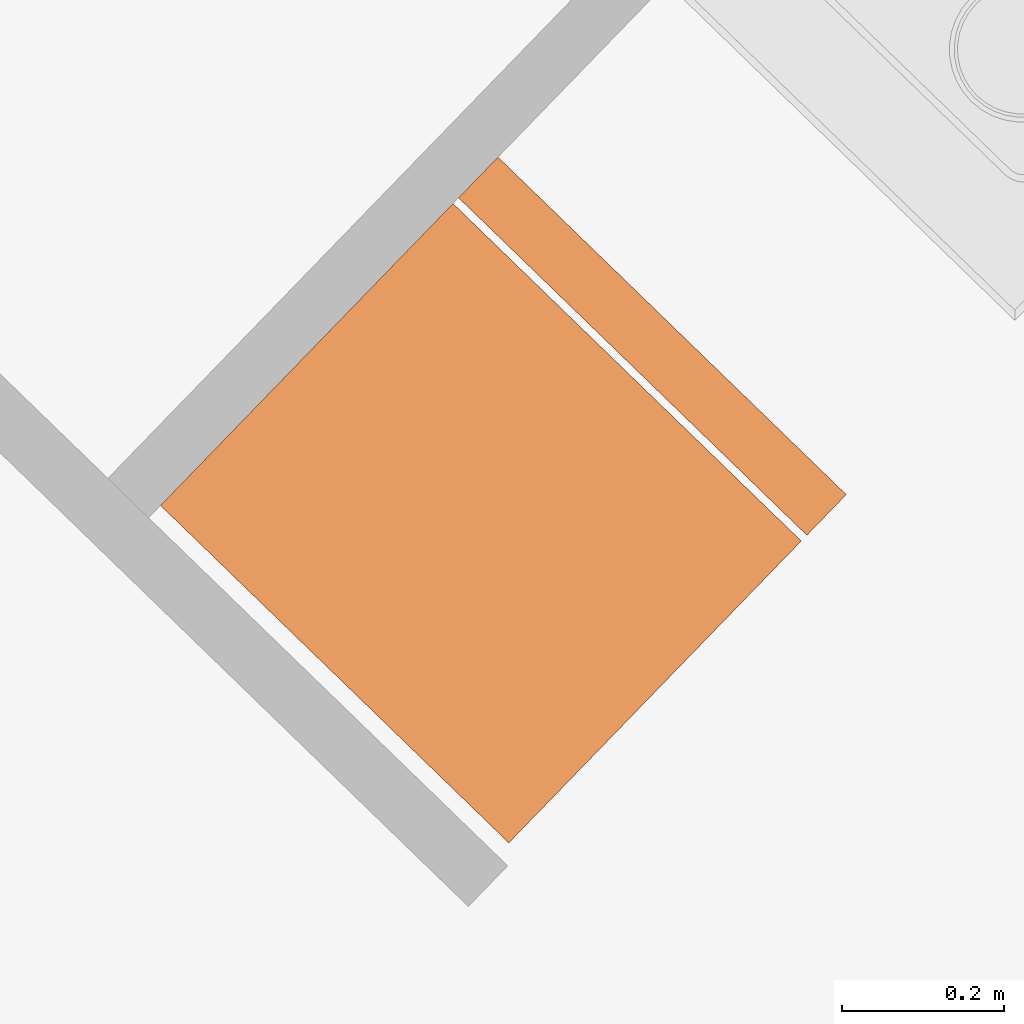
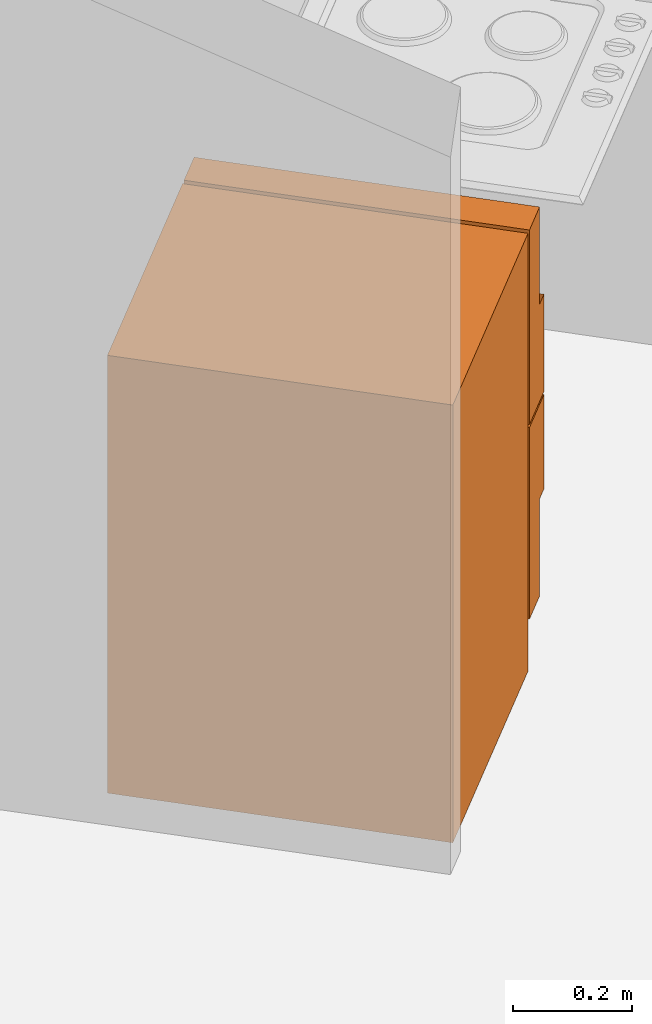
# One storey, part 114 of 121: 1 proxy.
"""IFC2X3 building model written with IfcOpenShell, lengths in metres."""

from ifc_helpers import new_model, entity, si_unit, converted_unit, derived_unit, money_unit, direction, frame, origin_with_axes, place, context, subcontext, project, spatial, open_shell, faceted_brep, surface_model, source, transform, mapped, type_object, element, save


model = new_model("IFC2X3")

# Units and contexts
model_context = context("Model", 3, precision=1e-05, world=origin_with_axes(), true_north=direction((0.0, 1.0)))
body_context = subcontext(model_context, "Body", "Model", "MODEL_VIEW")
ifc_project = project(units=[si_unit("LENGTHUNIT", "METRE"), si_unit("AREAUNIT", "SQUARE_METRE"), si_unit("VOLUMEUNIT", "CUBIC_METRE"), converted_unit("PLANEANGLEUNIT", "DEGREE", entity("IfcPlaneAngleMeasure", 0.0174532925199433), si_unit("PLANEANGLEUNIT", "RADIAN"), dimensions=[0, 0, 0, 0, 0, 0, 0]), money_unit("CHF"), converted_unit("TIMEUNIT", "Year", entity("IfcTimeMeasure", 31557600.0), si_unit("TIMEUNIT", "SECOND"), dimensions=[0, 0, 1, 0, 0, 0, 0]), si_unit("MASSUNIT", "GRAM", prefix="KILO"), si_unit("THERMODYNAMICTEMPERATUREUNIT", "DEGREE_CELSIUS"), si_unit("LUMINOUSINTENSITYUNIT", "LUMEN"), si_unit("ENERGYUNIT", "JOULE", prefix="MEGA"), derived_unit("THERMALCONDUCTANCEUNIT", [(si_unit("POWERUNIT", "WATT"), 1), (si_unit("LENGTHUNIT", "METRE"), -1), (si_unit("THERMODYNAMICTEMPERATUREUNIT", "KELVIN"), -1)]), derived_unit("SPECIFICHEATCAPACITYUNIT", [(si_unit("ENERGYUNIT", "JOULE"), 1), (si_unit("MASSUNIT", "GRAM", prefix="KILO"), -1), (si_unit("THERMODYNAMICTEMPERATUREUNIT", "KELVIN"), -1)]), derived_unit("MASSDENSITYUNIT", [(si_unit("MASSUNIT", "GRAM", prefix="KILO"), 1), (si_unit("VOLUMEUNIT", "CUBIC_METRE"), -1)])], contexts=[model_context])

# Site, building, storey
site_placement = place(None, origin_with_axes())
site = spatial("IfcSite", under=ifc_project, at=site_placement, Name="Site", CompositionType="ELEMENT")
building_placement = place(site_placement, origin_with_axes())
building = spatial("IfcBuilding", under=site, at=building_placement, Name="Bâtiment", CompositionType="ELEMENT")
storey_placement = place(building_placement, frame((0.0, 0.0, 2.75), z_axis=(0.0, 0.0, 1.0), x_axis=(1.0, 0.0, 0.0)))
storey = spatial("IfcBuildingStorey", under=building, at=storey_placement, Name="Etage 1", CompositionType="ELEMENT", Elevation=2.75)

# Proxy
building_element_proxy_type = type_object("IfcBuildingElementProxyType", PredefinedType="NOTDEFINED")
shared_shape = source(origin_with_axes(), body_context, "Body", "SurfaceModel", [
    faceted_brep([(0.0, 0.08, 0.1), (0.0, 0.08, 0.9), (-0.6, 0.08, 0.9), (-0.6, 0.08, 0.1), (0.0, 0.6, 0.1), (0.0, 0.6, 0.9), (-0.6, 0.6, 0.9), (-0.6, 0.6, 0.1)], [[[0, 1, 2, 3]], [[4, 5, 1, 0]], [[1, 5, 6, 2]], [[3, 2, 6, 7]], [[0, 3, 7, 4]], [[7, 6, 5, 4]]]),
    faceted_brep([(0.0, 0.08, 0.0), (0.0, 0.08, 0.1), (-0.6, 0.08, 0.1), (-0.6, 0.08, 0.0), (0.0, 0.6, 0.0), (0.0, 0.6, 0.1), (-0.6, 0.6, 0.1), (-0.6, 0.6, 0.0)], [[[0, 1, 2, 3]], [[4, 5, 1, 0]], [[1, 5, 6, 2]], [[3, 2, 6, 7]], [[0, 3, 7, 4]], [[7, 6, 5, 4]]]),
    faceted_brep([(0.0, 0.07, 0.1), (0.0, 0.0, 0.1), (-0.6, 0.0, 0.1), (-0.6, 0.07, 0.1), (0.0, 0.07000000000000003, 0.494), (0.0, 0.0, 0.494), (-0.6, 0.0, 0.494), (-0.6, 0.07000000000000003, 0.494)], [[[0, 1, 2, 3]], [[4, 5, 1, 0]], [[1, 5, 6, 2]], [[3, 2, 6, 7]], [[0, 3, 7, 4]], [[7, 6, 5, 4]]]),
    faceted_brep([(0.0, 0.07, 0.5), (0.0, 0.0, 0.5), (-0.6, 0.0, 0.5), (-0.6, 0.07, 0.5), (0.0, 0.07000000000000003, 0.9), (0.0, 0.0, 0.9), (-0.6, 0.0, 0.9), (-0.6, 0.07000000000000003, 0.9)], [[[0, 1, 2, 3]], [[4, 5, 1, 0]], [[1, 5, 6, 2]], [[3, 2, 6, 7]], [[0, 3, 7, 4]], [[7, 6, 5, 4]]]),
    surface_model("IfcShellBasedSurfaceModel", [(-0.6, -0.03, 0.3), (-0.6, 0.0, 0.3), (-0.6, 0.0, 0.4940000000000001), (-0.6, -0.03, 0.4940000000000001)], [open_shell([[[0, 1, 2, 3]]])]),
    surface_model("IfcShellBasedSurfaceModel", [(-0.6, -0.03, 0.3), (-0.57, -0.03, 0.3), (-0.57, -0.03, 0.4940000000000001), (-0.6, -0.03, 0.4940000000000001)], [open_shell([[[0, 1, 2, 3]]])]),
    surface_model("IfcShellBasedSurfaceModel", [(-0.6, -0.03, 0.5), (-0.6, 0.0, 0.5), (-0.6, 0.0, 0.7), (-0.6, -0.03, 0.7)], [open_shell([[[0, 1, 2, 3]]])]),
    surface_model("IfcShellBasedSurfaceModel", [(-0.6, -0.03, 0.5), (-0.57, -0.03, 0.5), (-0.57, -0.03, 0.7), (-0.6, -0.03, 0.7)], [open_shell([[[0, 1, 2, 3]]])]),
])
proxy_placement = place(storey_placement, frame((9533.23525521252, -1069.65949358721, 57.7), z_axis=(0.0, 0.0, 1.0), x_axis=(-0.7182234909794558, 0.6958124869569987, 0.0)))
element("IfcBuildingElementProxy", 1, at=proxy_placement, inside=storey, type_object=building_element_proxy_type, Name="Obj.-019", context=body_context, shape_type="MappedRepresentation", body=[
    mapped(shared_shape, transform((0.0, 0.0, 0.0))),
])

save(model, "model.ifc")
